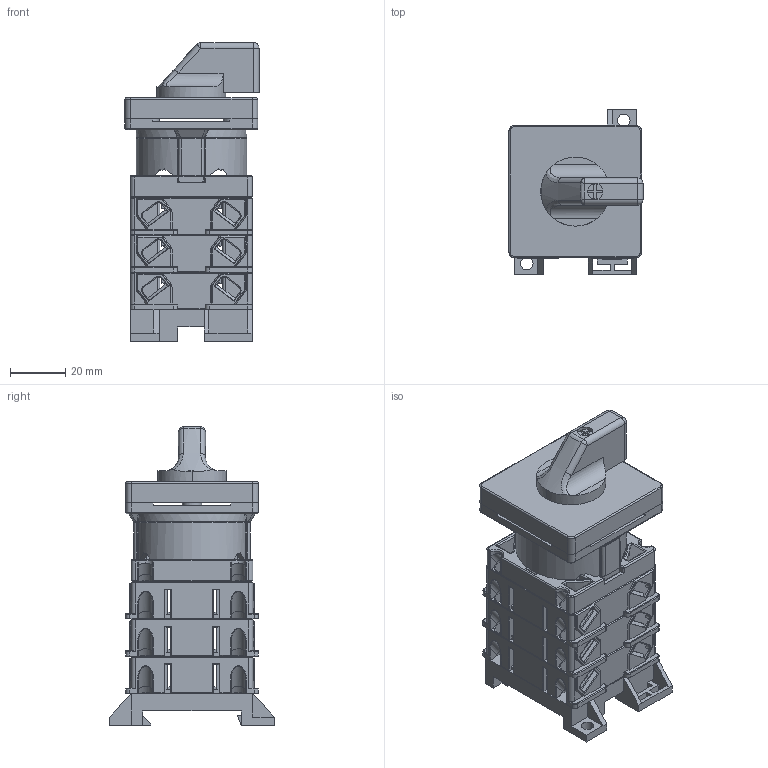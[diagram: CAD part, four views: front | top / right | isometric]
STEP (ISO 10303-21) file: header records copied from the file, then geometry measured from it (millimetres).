
FILE_DESCRIPTION (( 'STEP AP203' ), '1' );
FILE_NAME ('S18 10À (3 ïàêåòà).STEP', '2015-12-08T11:34:02', ( '' ), ( '' ), 'SwSTEP 2.0', 'SolidWorks 2012', '' );
FILE_SCHEMA (( 'CONFIG_CONTROL_DESIGN' ));
Products named in the file (8): S18 10À (3 ïàêåòà); Ðóêîÿòêà 11; Ïàíåëü ïåðåäíÿÿ 11_00; 署赅 囵疱蜩痤忸黜铋 赅戾瘥_ 11; Êàìåðà àððåòèðîâî÷íàÿ 11; 署赅 觐眚嚓蝽铋 赅戾瘥_ 11; Êàìåðà êîíòàêòíàÿ 11_00; 牮赅 觐眚嚓蝽铋 赅戾瘥 s18 10
Assembly tree (9 placements, depth 2):
  S18 10À (3 ïàêåòà)
    牮赅 觐眚嚓蝽铋 赅戾瘥 s18 10
    Êàìåðà êîíòàêòíàÿ 11_00  x3
    署赅 觐眚嚓蝽铋 赅戾瘥_ 11
    Êàìåðà àððåòèðîâî÷íàÿ 11
    署赅 囵疱蜩痤忸黜铋 赅戾瘥_ 11
    Ïàíåëü ïåðåäíÿÿ 11_00
    Ðóêîÿòêà 11
Bounding box: 48.5 x 59.6 x 108.1 mm (x, y, z)
Volume: 85504.8 mm3; surface area: 78640.4 mm2
Topology: 9 solids, 9 shells, 4301 faces, 11633 edges, 7363 vertices
Faces by surface type: plane 2571, cylinder 1277, torus 176, cone 158, bspline 63, sphere 56
Entity records: 81197 total; most frequent: CARTESIAN_POINT 17712, ORIENTED_EDGE 13434, DIRECTION 12804, EDGE_CURVE 6717, VECTOR 4542, LINE 4542, VERTEX_POINT 4239, AXIS2_PLACEMENT_3D 4131
